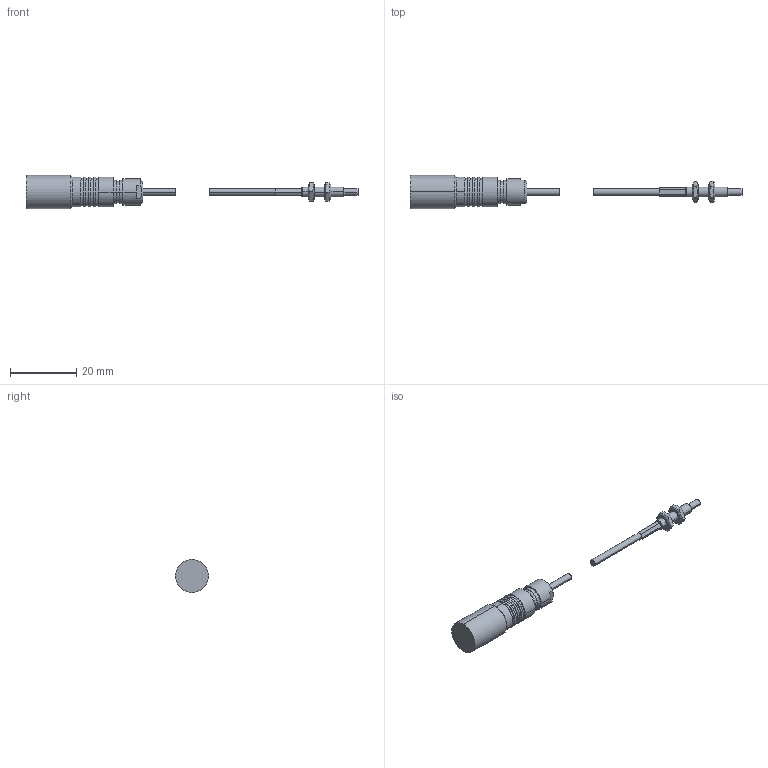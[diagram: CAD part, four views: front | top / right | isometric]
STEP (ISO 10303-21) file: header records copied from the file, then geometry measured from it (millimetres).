
FILE_DESCRIPTION((''),'2;1');
FILE_NAME('EU05_ASM','2017-02-17T',('11000065'),(''),'CREO PARAMETRIC BY PTC INC, 2016260','CREO PARAMETRIC BY PTC INC, 2016260','');
FILE_SCHEMA(('AUTOMOTIVE_DESIGN { 1 0 10303 214 1 1 1 1 }'));
Length unit declared in the file: millimetre
Products named in the file (1): EU05_ASM
Bounding box: 100.3 x 10 x 10 mm (x, y, z)
Volume: 2540.4 mm3; surface area: 1721.3 mm2
Topology: 2 solids, 2 shells, 110 faces, 240 edges, 154 vertices
Faces by surface type: plane 46, cylinder 40, cone 24
Entity records: 4744 total; most frequent: CARTESIAN_POINT 888, DIRECTION 544, ORIENTED_EDGE 480, PRESENTATION_STYLE_ASSIGNMENT 242, STYLED_ITEM 242, CURVE_STYLE 240, EDGE_CURVE 240, AXIS2_PLACEMENT_3D 222
